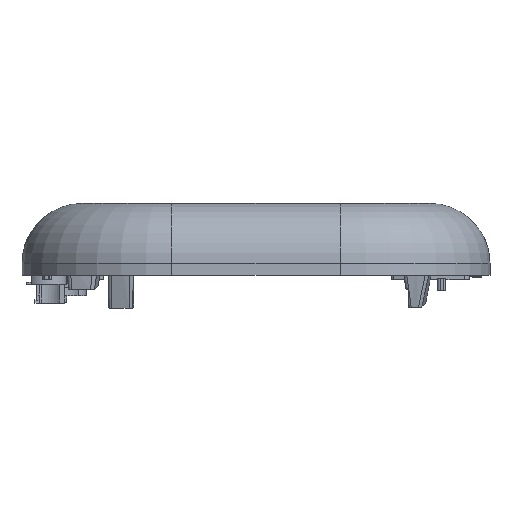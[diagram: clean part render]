
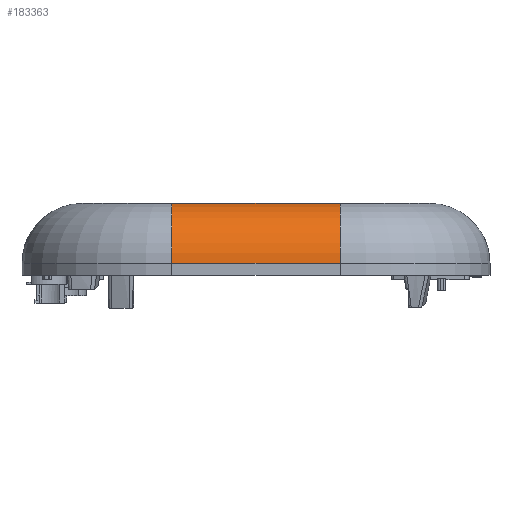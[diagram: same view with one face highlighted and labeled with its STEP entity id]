
A CAD part, front view. The second image highlights one B-rep face of the part: STEP entity #183363.
In plain terms, the highlighted cylindrical face has radius 10 mm (diameter 20 mm), a partial arc.
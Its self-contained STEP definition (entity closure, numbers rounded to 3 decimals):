
#51996 = PLANE('',#51997);
#51997 = AXIS2_PLACEMENT_3D('',#51998,#51999,#52000);
#51998 = CARTESIAN_POINT('',(0.,0.,0.));
#51999 = DIRECTION('',(0.,0.,1.));
#52000 = DIRECTION('',(1.,0.,-0.));
#104512 = VERTEX_POINT('',#104513);
#104513 = CARTESIAN_POINT('',(-14.,-65.,0.));
#104532 = TOROIDAL_SURFACE('',#104533,15.,10.);
#104533 = AXIS2_PLACEMENT_3D('',#104534,#104535,#104536);
#104534 = CARTESIAN_POINT('',(-14.,-50.,-10.));
#104535 = DIRECTION('',(0.,0.,1.));
#104536 = DIRECTION('',(1.,0.,-0.));
#104544 = EDGE_CURVE('',#104545,#104512,#104547,.T.);
#104545 = VERTEX_POINT('',#104546);
#104546 = CARTESIAN_POINT('',(14.,-65.,0.));
#104547 = SURFACE_CURVE('',#104548,(#104552,#104559),.PCURVE_S1.);
#104548 = LINE('',#104549,#104550);
#104549 = CARTESIAN_POINT('',(0.,-65.,0.));
#104550 = VECTOR('',#104551,1.);
#104551 = DIRECTION('',(-1.,0.,0.));
#104552 = PCURVE('',#51996,#104553);
#104553 = DEFINITIONAL_REPRESENTATION('',(#104554),#104558);
#104554 = LINE('',#104555,#104556);
#104555 = CARTESIAN_POINT('',(0.,-65.));
#104556 = VECTOR('',#104557,1.);
#104557 = DIRECTION('',(-1.,0.));
#104558 = ( GEOMETRIC_REPRESENTATION_CONTEXT(2) 
PARAMETRIC_REPRESENTATION_CONTEXT() REPRESENTATION_CONTEXT('2D SPACE',''
  ) );
#104559 = PCURVE('',#104560,#104565);
#104560 = CYLINDRICAL_SURFACE('',#104561,10.);
#104561 = AXIS2_PLACEMENT_3D('',#104562,#104563,#104564);
#104562 = CARTESIAN_POINT('',(0.,-65.,-10.));
#104563 = DIRECTION('',(1.,0.,0.));
#104564 = DIRECTION('',(0.,-0.707,0.707));
#104565 = DEFINITIONAL_REPRESENTATION('',(#104566),#104570);
#104566 = LINE('',#104567,#104568);
#104567 = CARTESIAN_POINT('',(5.498,0.));
#104568 = VECTOR('',#104569,1.);
#104569 = DIRECTION('',(0.,-1.));
#104570 = ( GEOMETRIC_REPRESENTATION_CONTEXT(2) 
PARAMETRIC_REPRESENTATION_CONTEXT() REPRESENTATION_CONTEXT('2D SPACE',''
  ) );
#104593 = TOROIDAL_SURFACE('',#104594,15.,10.);
#104594 = AXIS2_PLACEMENT_3D('',#104595,#104596,#104597);
#104595 = CARTESIAN_POINT('',(14.,-50.,-10.));
#104596 = DIRECTION('',(0.,0.,1.));
#104597 = DIRECTION('',(1.,0.,-0.));
#142447 = PLANE('',#142448);
#142448 = AXIS2_PLACEMENT_3D('',#142449,#142450,#142451);
#142449 = CARTESIAN_POINT('',(0.,-75.,-12.));
#142450 = DIRECTION('',(0.,1.,0.));
#142451 = DIRECTION('',(0.,-0.,1.));
#183316 = EDGE_CURVE('',#183317,#104512,#183319,.T.);
#183317 = VERTEX_POINT('',#183318);
#183318 = CARTESIAN_POINT('',(-14.,-75.,-10.));
#183319 = SURFACE_CURVE('',#183320,(#183325,#183332),.PCURVE_S1.);
#183320 = CIRCLE('',#183321,10.);
#183321 = AXIS2_PLACEMENT_3D('',#183322,#183323,#183324);
#183322 = CARTESIAN_POINT('',(-14.,-65.,-10.));
#183323 = DIRECTION('',(-1.,0.,0.));
#183324 = DIRECTION('',(0.,-1.,0.));
#183325 = PCURVE('',#104532,#183326);
#183326 = DEFINITIONAL_REPRESENTATION('',(#183327),#183331);
#183327 = LINE('',#183328,#183329);
#183328 = CARTESIAN_POINT('',(4.712,0.));
#183329 = VECTOR('',#183330,1.);
#183330 = DIRECTION('',(0.,1.));
#183331 = ( GEOMETRIC_REPRESENTATION_CONTEXT(2) 
PARAMETRIC_REPRESENTATION_CONTEXT() REPRESENTATION_CONTEXT('2D SPACE',''
  ) );
#183332 = PCURVE('',#104560,#183333);
#183333 = DEFINITIONAL_REPRESENTATION('',(#183334),#183338);
#183334 = LINE('',#183335,#183336);
#183335 = CARTESIAN_POINT('',(7.069,-14.));
#183336 = VECTOR('',#183337,1.);
#183337 = DIRECTION('',(-1.,0.));
#183338 = ( GEOMETRIC_REPRESENTATION_CONTEXT(2) 
PARAMETRIC_REPRESENTATION_CONTEXT() REPRESENTATION_CONTEXT('2D SPACE',''
  ) );
#183363 = ADVANCED_FACE('',(#183364),#104560,.T.);
#183364 = FACE_BOUND('',#183365,.T.);
#183365 = EDGE_LOOP('',(#183366,#183390,#183391,#183392));
#183366 = ORIENTED_EDGE('',*,*,#183367,.T.);
#183367 = EDGE_CURVE('',#183368,#104545,#183370,.T.);
#183368 = VERTEX_POINT('',#183369);
#183369 = CARTESIAN_POINT('',(14.,-75.,-10.));
#183370 = SURFACE_CURVE('',#183371,(#183376,#183383),.PCURVE_S1.);
#183371 = CIRCLE('',#183372,10.);
#183372 = AXIS2_PLACEMENT_3D('',#183373,#183374,#183375);
#183373 = CARTESIAN_POINT('',(14.,-65.,-10.));
#183374 = DIRECTION('',(-1.,0.,0.));
#183375 = DIRECTION('',(0.,-1.,0.));
#183376 = PCURVE('',#104560,#183377);
#183377 = DEFINITIONAL_REPRESENTATION('',(#183378),#183382);
#183378 = LINE('',#183379,#183380);
#183379 = CARTESIAN_POINT('',(7.069,14.));
#183380 = VECTOR('',#183381,1.);
#183381 = DIRECTION('',(-1.,0.));
#183382 = ( GEOMETRIC_REPRESENTATION_CONTEXT(2) 
PARAMETRIC_REPRESENTATION_CONTEXT() REPRESENTATION_CONTEXT('2D SPACE',''
  ) );
#183383 = PCURVE('',#104593,#183384);
#183384 = DEFINITIONAL_REPRESENTATION('',(#183385),#183389);
#183385 = LINE('',#183386,#183387);
#183386 = CARTESIAN_POINT('',(4.712,0.));
#183387 = VECTOR('',#183388,1.);
#183388 = DIRECTION('',(0.,1.));
#183389 = ( GEOMETRIC_REPRESENTATION_CONTEXT(2) 
PARAMETRIC_REPRESENTATION_CONTEXT() REPRESENTATION_CONTEXT('2D SPACE',''
  ) );
#183390 = ORIENTED_EDGE('',*,*,#104544,.T.);
#183391 = ORIENTED_EDGE('',*,*,#183316,.F.);
#183392 = ORIENTED_EDGE('',*,*,#183393,.T.);
#183393 = EDGE_CURVE('',#183317,#183368,#183394,.T.);
#183394 = SURFACE_CURVE('',#183395,(#183399,#183406),.PCURVE_S1.);
#183395 = LINE('',#183396,#183397);
#183396 = CARTESIAN_POINT('',(0.,-75.,-10.));
#183397 = VECTOR('',#183398,1.);
#183398 = DIRECTION('',(1.,0.,0.));
#183399 = PCURVE('',#104560,#183400);
#183400 = DEFINITIONAL_REPRESENTATION('',(#183401),#183405);
#183401 = LINE('',#183402,#183403);
#183402 = CARTESIAN_POINT('',(7.069,0.));
#183403 = VECTOR('',#183404,1.);
#183404 = DIRECTION('',(0.,1.));
#183405 = ( GEOMETRIC_REPRESENTATION_CONTEXT(2) 
PARAMETRIC_REPRESENTATION_CONTEXT() REPRESENTATION_CONTEXT('2D SPACE',''
  ) );
#183406 = PCURVE('',#142447,#183407);
#183407 = DEFINITIONAL_REPRESENTATION('',(#183408),#183412);
#183408 = LINE('',#183409,#183410);
#183409 = CARTESIAN_POINT('',(2.,0.));
#183410 = VECTOR('',#183411,1.);
#183411 = DIRECTION('',(0.,1.));
#183412 = ( GEOMETRIC_REPRESENTATION_CONTEXT(2) 
PARAMETRIC_REPRESENTATION_CONTEXT() REPRESENTATION_CONTEXT('2D SPACE',''
  ) );
